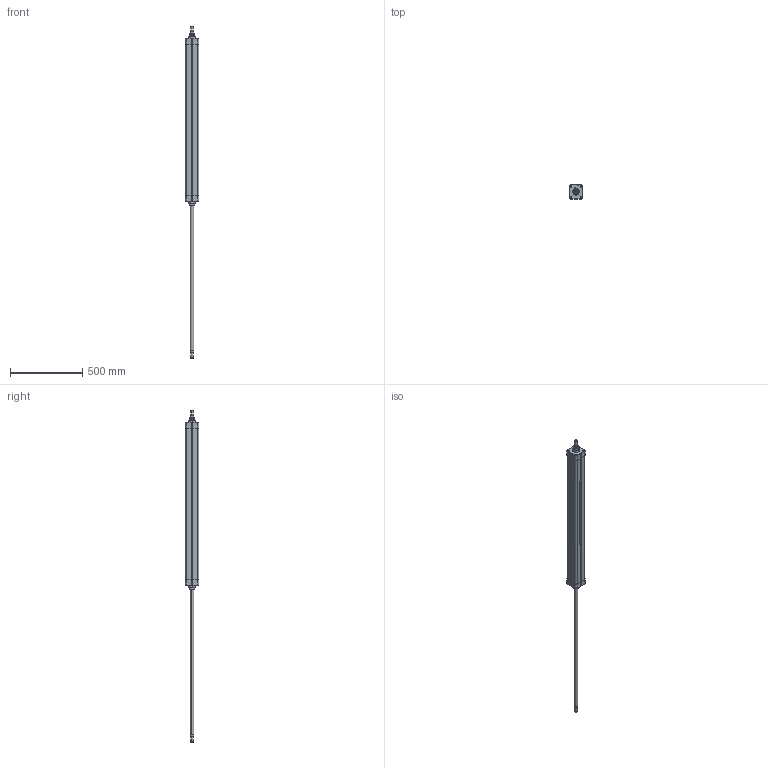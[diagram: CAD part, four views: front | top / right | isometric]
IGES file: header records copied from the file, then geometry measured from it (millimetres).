
Global section: file name: No Iges File Name specified; native system: AutoDesk Inventor R6.1; preprocessor: AutoDesk Inventor Iges Exporter R6.1; author: No Author specified; organization: No Organization specified; date: 20040107.173215; units: millimetre
Bounding box: 95.5 x 95.5 x 2300 mm (x, y, z)
Volume: 10492251.6 mm3; surface area: 774556.6 mm2
Topology: 2 solids, 2 shells, 236 faces, 564 edges, 356 vertices
Faces by surface type: plane 80, bspline 62, cylinder 42, revolution 32, cone 16, torus 4
